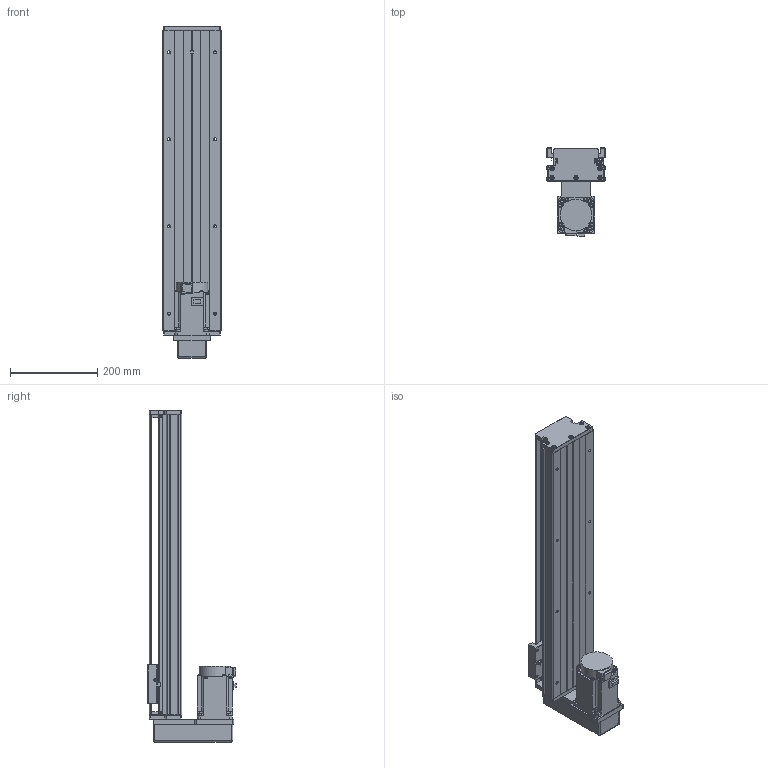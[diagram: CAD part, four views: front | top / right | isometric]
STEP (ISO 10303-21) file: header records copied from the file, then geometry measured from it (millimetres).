
FILE_DESCRIPTION (( 'STEP AP203' ), '1' );
FILE_NAME ('KTH130-550-BM-M75-C4.step', '2023-06-30T04:37:59', ( '微软用户' ), ( '微软中国' ), 'SwSTEP 2.0', 'SolidWorks 2020', '' );
FILE_SCHEMA (( 'CONFIG_CONTROL_DESIGN' ));
Length unit declared in the file: millimetre
Products named in the file (18): GBT77-2000 M3×3; GBT70.1 M5℅16; す晦芛蹟隊 M3℅5; GBT 70.2-M3¡Á5_M3¡Á6; GBT 70.3-M3℅8; GTH14-001_550; CTHA60-017; hg-kn73j_-s100; KTH130-002_KTH130-002; EE_SX911P_R; CTHA86-015-3_CTHA86-015-4; KTH130-004; CTHA60-016; CTHA86-035; KTH130-005; GBT 70.1-M3℅5; KTH130-550-BM-M75-C4; GB1155-6X6
Assembly tree (49 placements, depth 2):
  KTH130-550-BM-M75-C4
    GTH14-001_550
    KTH130-002_KTH130-002
    KTH130-004
    KTH130-005
    GB1155-6X6  x2
    GBT70.1 M5℅16  x10
    GBT 70.2-M3¡Á5_M3¡Á6  x4
    CTHA60-017  x3
    EE_SX911P_R  x3
    CTHA60-016  x2
    GBT 70.1-M3℅5  x6
    GBT77-2000 M3×3  x6
    す晦芛蹟隊 M3℅5  x2
    GBT 70.3-M3℅8  x4
    hg-kn73j_-s100
    CTHA86-015-3_CTHA86-015-4
    CTHA86-035
Bounding box: 135 x 202.8 x 762 mm (x, y, z)
Volume: 5210668.3 mm3; surface area: 750950.3 mm2
Topology: 52 solids, 52 shells, 2182 faces, 5292 edges, 3311 vertices
Faces by surface type: plane 1206, cylinder 622, cone 238, torus 100, sphere 16
Entity records: 39637 total; most frequent: CARTESIAN_POINT 6672, DIRECTION 6517, ORIENTED_EDGE 6088, EDGE_CURVE 3044, AXIS2_PLACEMENT_3D 2274, LINE 1969, VECTOR 1969, VERTEX_POINT 1945
